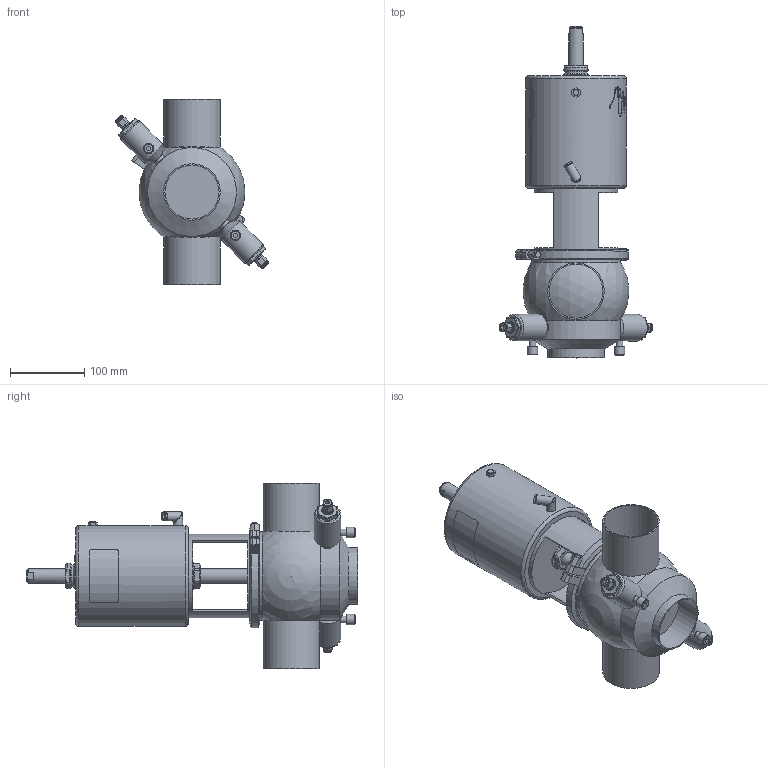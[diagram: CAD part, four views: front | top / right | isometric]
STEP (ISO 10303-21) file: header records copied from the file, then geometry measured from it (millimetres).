
FILE_DESCRIPTION (( 'STEP AP214' ), '1' );
FILE_NAME ('INNOVA D T W OD 3 T3 AS NC_10.246.16.0002.STEP', '2024-08-08T09:38:35', ( '' ), ( '' ), 'SwSTEP 2.0', 'SolidWorks 2023', '' );
FILE_SCHEMA (( 'AUTOMOTIVE_DESIGN' ));
Length unit declared in the file: millimetre
Products named in the file (5): 10.240.15.0014_T3 AS P0; 10.246.15.0002_OD 3"; 10.240.15.0001_DN 080; 10.240.15.0010_DN 080; INNOVA D T W OD 3 T3 AS NC_10.246.16.0002
Assembly tree (4 placements, depth 2):
  INNOVA D T W OD 3 T3 AS NC_10.246.16.0002
    10.246.15.0002_OD 3"
    10.240.15.0010_DN 080
    10.240.15.0014_T3 AS P0
    10.240.15.0001_DN 080
Bounding box: 207.32 x 448 x 250 mm (x, y, z)
Volume: 4222150.4 mm3; surface area: 364541.1 mm2
Topology: 4 solids, 4 shells, 424 faces, 1069 edges, 694 vertices
Faces by surface type: plane 225, cylinder 85, bspline 80, cone 27, torus 4, sphere 3
Full cylindrical faces by diameter (mm): 6 x4, 6.15 x1, 8 x3, 8.5 x1, 9 x2, 10 x2, 10.5 x1, 12 x4, 12.5 x3, 14 x4, 15 x2, 16 x1, 20 x2, 31 x1, 34.5 x2, 36 x2, 36.5 x1, 72.9 x3, 76.2 x3, 113 x1, 120 x2, 132 x2, 136 x1
Entity records: 23040 total; most frequent: CARTESIAN_POINT 12034, ORIENTED_EDGE 1928, DIRECTION 1611, EDGE_CURVE 964, VERTEX_POINT 667, AXIS2_PLACEMENT_3D 607, EDGE_LOOP 551, FACE_OUTER_BOUND 479
